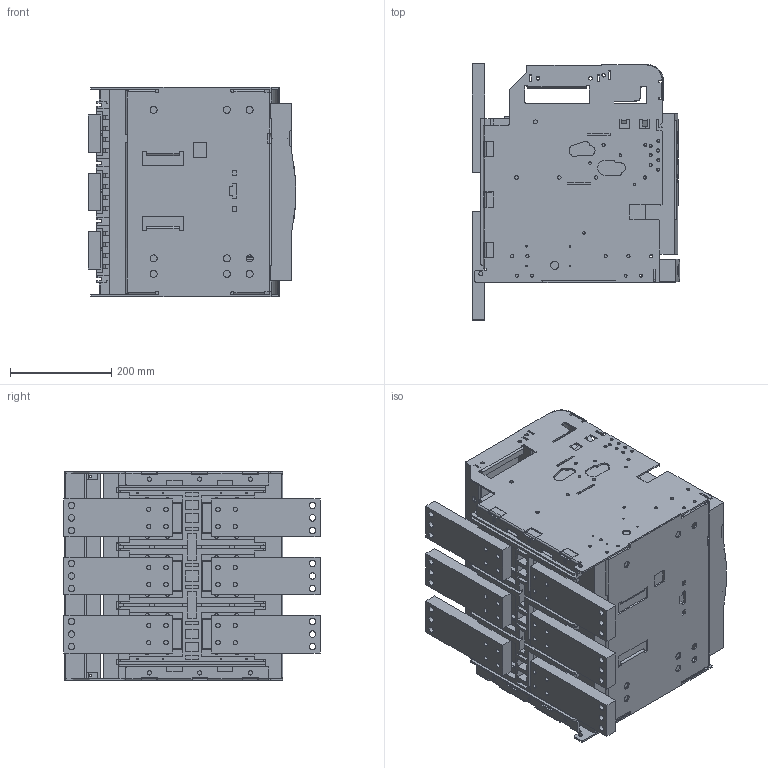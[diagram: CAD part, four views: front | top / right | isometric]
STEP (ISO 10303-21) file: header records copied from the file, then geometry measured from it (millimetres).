
FILE_DESCRIPTION (( 'STEP AP214' ), '1' );
FILE_NAME ('OptiMat A-S4-BH-2500-3P-D-X.STEP', '2023-09-25T08:16:29', ( '' ), ( '' ), 'SwSTEP 2.0', 'SolidWorks 2018', '' );
FILE_SCHEMA (( 'AUTOMOTIVE_DESIGN' ));
Length unit declared in the file: millimetre
Products named in the file (1): OptiMat A-S4-BH-2500-3P-D-X
Bounding box: 410.8 x 507 x 415 mm (x, y, z)
Volume: 49872176.1 mm3; surface area: 2407829.3 mm2
Topology: 1 solids, 2 shells, 3479 faces, 9802 edges, 6398 vertices
Faces by surface type: plane 2449, cylinder 891, cone 85, bspline 36, torus 18
Entity records: 157255 total; most frequent: CARTESIAN_POINT 28873, ORIENTED_EDGE 19584, DIRECTION 18195, EDGE_CURVE 9792, LINE 7523, VECTOR 7523, VERTEX_POINT 6398, AXIS2_PLACEMENT_3D 5336
